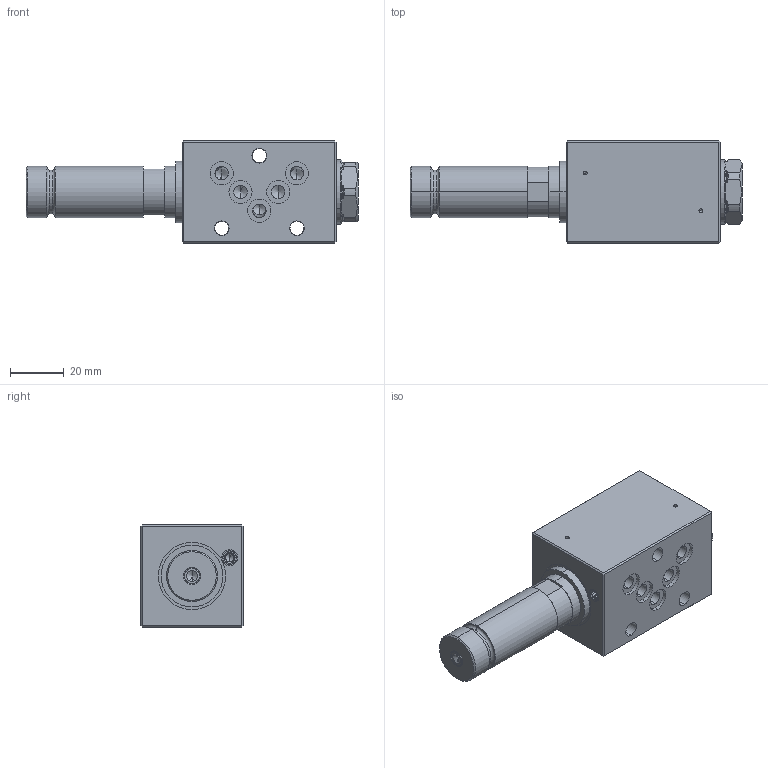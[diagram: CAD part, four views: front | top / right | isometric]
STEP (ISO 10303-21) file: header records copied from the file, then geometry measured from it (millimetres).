
FILE_DESCRIPTION (( 'STEP AP203' ), '1' );
FILE_NAME ('WDEFA04-4_2-Aside.step', '2013-07-25T09:09:32', ( 'Wandfluh AG' ), ( 'Wandfluh AG' ), 'SwSTEP 2.0', 'SolidWorks 2012', '' );
FILE_SCHEMA (( 'CONFIG_CONTROL_DESIGN' ));
Length unit declared in the file: millimetre
Products named in the file (1): WDEFA04-4_2-Aside
Bounding box: 123.5 x 38 x 38 mm (x, y, z)
Volume: 90534 mm3; surface area: 27431.2 mm2
Topology: 8 solids, 8 shells, 979 faces, 2670 edges, 1729 vertices
Faces by surface type: plane 586, cylinder 258, cone 71, torus 36, bspline 28
Entity records: 32890 total; most frequent: CARTESIAN_POINT 7646, DIRECTION 5337, ORIENTED_EDGE 5296, EDGE_CURVE 2648, AXIS2_PLACEMENT_3D 1876, VERTEX_POINT 1729, LINE 1585, VECTOR 1585
